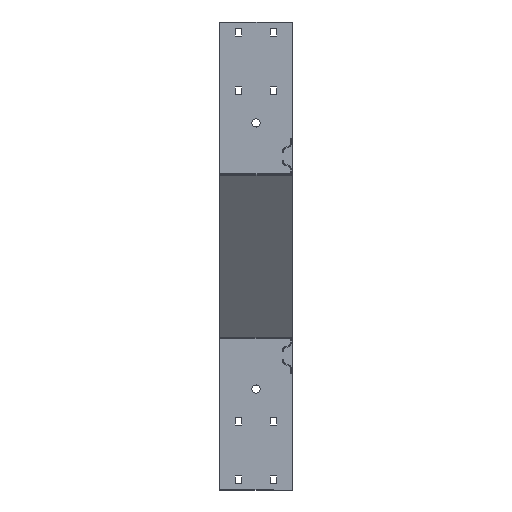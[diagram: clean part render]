
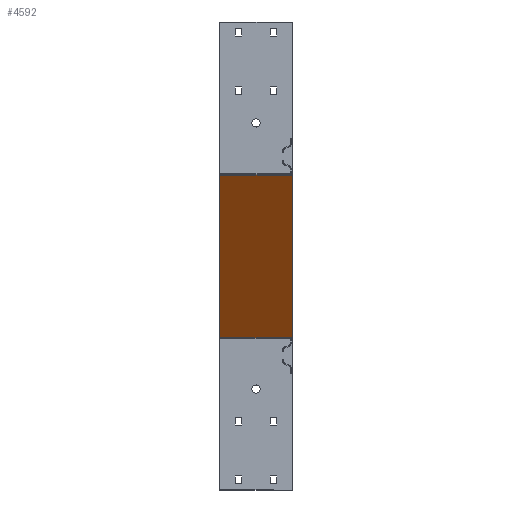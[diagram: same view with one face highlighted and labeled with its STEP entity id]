
A CAD part, left-side view. The second image highlights one B-rep face of the part: STEP entity #4592.
In plain terms, the highlighted planar face has unit normal (-0.779, 0, -0.626) as drawn and (0.78, 0, -0.626) by its records, which use the part's own axes.
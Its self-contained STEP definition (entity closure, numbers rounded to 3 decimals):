
#833 = ORIENTED_EDGE ( 'NONE', *, *, #9523, .F. ) ;
#860 = ORIENTED_EDGE ( 'NONE', *, *, #2321, .T. ) ;
#904 = LINE ( 'NONE', #10898, #11247 ) ;
#1432 = DIRECTION ( 'NONE',  ( 0.626, 0., 0.78 ) ) ;
#1492 = FACE_OUTER_BOUND ( 'NONE', #6569, .T. ) ;
#1662 = CARTESIAN_POINT ( 'NONE',  ( 451.559, 124., -1.253 ) ) ;
#1752 = VECTOR ( 'NONE', #4539, 1000. ) ;
#2321 = EDGE_CURVE ( 'NONE', #8507, #9496, #9783, .T. ) ;
#2664 = CARTESIAN_POINT ( 'NONE',  ( 451.559, 0., -1.253 ) ) ;
#2839 = DIRECTION ( 'NONE',  ( -0.626, 0., -0.78 ) ) ;
#4063 = VERTEX_POINT ( 'NONE', #10273 ) ;
#4539 = DIRECTION ( 'NONE',  ( -0.626, 0., -0.78 ) ) ;
#4592 = ADVANCED_FACE ( 'NONE', ( #1492 ), #9649, .F. ) ;
#4649 = VERTEX_POINT ( 'NONE', #5136 ) ;
#5075 = DIRECTION ( 'NONE',  ( -0.78, 0., 0.626 ) ) ;
#5086 = CARTESIAN_POINT ( 'NONE',  ( 227.331, 0., -280.292 ) ) ;
#5136 = CARTESIAN_POINT ( 'NONE',  ( 451.228, 124., -1.664 ) ) ;
#5586 = CARTESIAN_POINT ( 'NONE',  ( 227.331, 0., -280.292 ) ) ;
#5605 = ORIENTED_EDGE ( 'NONE', *, *, #7275, .T. ) ;
#6269 = LINE ( 'NONE', #2664, #1752 ) ;
#6569 = EDGE_LOOP ( 'NONE', ( #5605, #860, #11272, #833 ) ) ;
#6723 = CARTESIAN_POINT ( 'NONE',  ( 451.228, 0., -1.664 ) ) ;
#6821 = VECTOR ( 'NONE', #10562, 1000. ) ;
#7275 = EDGE_CURVE ( 'NONE', #4063, #8507, #6269, .T. ) ;
#7608 = CARTESIAN_POINT ( 'NONE',  ( 227.331, 124., -280.292 ) ) ;
#7668 = LINE ( 'NONE', #6723, #8185 ) ;
#8185 = VECTOR ( 'NONE', #8546, 1000. ) ;
#8507 = VERTEX_POINT ( 'NONE', #5586 ) ;
#8546 = DIRECTION ( 'NONE',  ( 0., 1., 0. ) ) ;
#9496 = VERTEX_POINT ( 'NONE', #7608 ) ;
#9523 = EDGE_CURVE ( 'NONE', #4063, #4649, #7668, .T. ) ;
#9649 = PLANE ( 'NONE',  #10133 ) ;
#9783 = LINE ( 'NONE', #5086, #6821 ) ;
#10133 = AXIS2_PLACEMENT_3D ( 'NONE', #1662, #5075, #1432 ) ;
#10273 = CARTESIAN_POINT ( 'NONE',  ( 451.228, 0., -1.664 ) ) ;
#10562 = DIRECTION ( 'NONE',  ( 0., 1., 0. ) ) ;
#10598 = EDGE_CURVE ( 'NONE', #4649, #9496, #904, .T. ) ;
#10898 = CARTESIAN_POINT ( 'NONE',  ( 451.559, 124., -1.253 ) ) ;
#11247 = VECTOR ( 'NONE', #2839, 1000. ) ;
#11272 = ORIENTED_EDGE ( 'NONE', *, *, #10598, .F. ) ;
